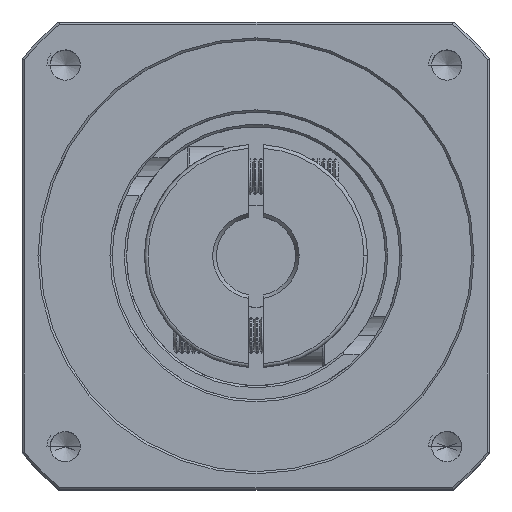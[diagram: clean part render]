
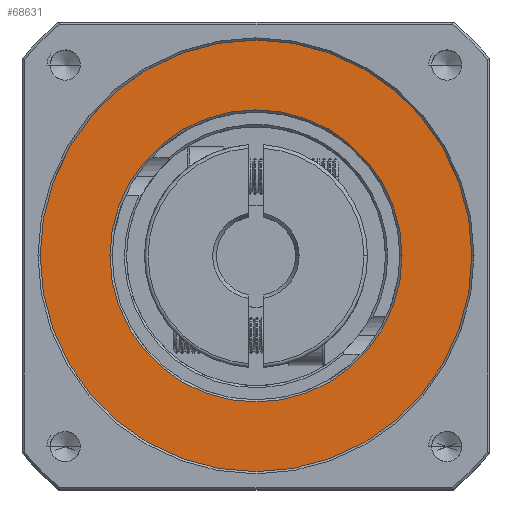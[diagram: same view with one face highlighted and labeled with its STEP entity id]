
A CAD part, top view. The second image highlights one B-rep face of the part: STEP entity #68631.
In plain terms, the highlighted planar face has unit normal (0, 0, 1).
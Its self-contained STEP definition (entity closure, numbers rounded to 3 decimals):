
#2599 = CARTESIAN_POINT ( 'NONE',  ( -101.435, 18.488, 28.781 ) ) ;
#4515 = FACE_BOUND ( 'NONE', #92381, .T. ) ;
#4580 = CIRCLE ( 'NONE', #83256, 30. ) ;
#4978 = AXIS2_PLACEMENT_3D ( 'NONE', #46759, #104182, #55068 ) ;
#6555 = DIRECTION ( 'NONE',  ( 1., 0., 0. ) ) ;
#6906 = CIRCLE ( 'NONE', #60551, 20.3 ) ;
#14480 = PLANE ( 'NONE',  #96137 ) ;
#22215 = ORIENTED_EDGE ( 'NONE', *, *, #104217, .T. ) ;
#23083 = ORIENTED_EDGE ( 'NONE', *, *, #30165, .T. ) ;
#25081 = VERTEX_POINT ( 'NONE', #61926 ) ;
#30165 = EDGE_CURVE ( 'NONE', #52276, #25081, #4580, .T. ) ;
#31295 = CARTESIAN_POINT ( 'NONE',  ( -111.135, 18.488, 28.781 ) ) ;
#35867 = CARTESIAN_POINT ( 'NONE',  ( -81.135, 18.488, 28.781 ) ) ;
#37338 = CARTESIAN_POINT ( 'NONE',  ( -81.135, 18.488, 28.781 ) ) ;
#39035 = CARTESIAN_POINT ( 'NONE',  ( -81.135, 18.488, 28.781 ) ) ;
#44101 = DIRECTION ( 'NONE',  ( 1., 0., 0. ) ) ;
#45604 = DIRECTION ( 'NONE',  ( 1., 0., 0. ) ) ;
#46759 = CARTESIAN_POINT ( 'NONE',  ( -81.135, 18.488, 28.781 ) ) ;
#47356 = DIRECTION ( 'NONE',  ( 1., 0., 0. ) ) ;
#51427 = EDGE_LOOP ( 'NONE', ( #22215, #23083 ) ) ;
#52276 = VERTEX_POINT ( 'NONE', #31295 ) ;
#54029 = AXIS2_PLACEMENT_3D ( 'NONE', #35867, #93284, #44101 ) ;
#55068 = DIRECTION ( 'NONE',  ( 1., 0., 0. ) ) ;
#55907 = DIRECTION ( 'NONE',  ( 0., 0., 1. ) ) ;
#56147 = CIRCLE ( 'NONE', #54029, 30. ) ;
#56596 = VERTEX_POINT ( 'NONE', #98701 ) ;
#56997 = EDGE_CURVE ( 'NONE', #56596, #92462, #6906, .T. ) ;
#60551 = AXIS2_PLACEMENT_3D ( 'NONE', #39035, #96453, #47356 ) ;
#61926 = CARTESIAN_POINT ( 'NONE',  ( -51.135, 18.488, 28.781 ) ) ;
#68631 = ADVANCED_FACE ( 'NONE', ( #4515, #89369 ), #14480, .T. ) ;
#69196 = CIRCLE ( 'NONE', #4978, 20.3 ) ;
#70068 = ORIENTED_EDGE ( 'NONE', *, *, #56997, .T. ) ;
#70105 = ORIENTED_EDGE ( 'NONE', *, *, #103656, .T. ) ;
#83256 = AXIS2_PLACEMENT_3D ( 'NONE', #37338, #94750, #45604 ) ;
#89369 = FACE_OUTER_BOUND ( 'NONE', #51427, .T. ) ;
#92381 = EDGE_LOOP ( 'NONE', ( #70068, #70105 ) ) ;
#92462 = VERTEX_POINT ( 'NONE', #2599 ) ;
#93284 = DIRECTION ( 'NONE',  ( 0., 0., 1. ) ) ;
#94750 = DIRECTION ( 'NONE',  ( 0., 0., 1. ) ) ;
#96137 = AXIS2_PLACEMENT_3D ( 'NONE', #105031, #55907, #6555 ) ;
#96453 = DIRECTION ( 'NONE',  ( 0., 0., -1. ) ) ;
#98701 = CARTESIAN_POINT ( 'NONE',  ( -60.835, 18.488, 28.781 ) ) ;
#103656 = EDGE_CURVE ( 'NONE', #92462, #56596, #69196, .T. ) ;
#104182 = DIRECTION ( 'NONE',  ( 0., 0., -1. ) ) ;
#104217 = EDGE_CURVE ( 'NONE', #25081, #52276, #56147, .T. ) ;
#105031 = CARTESIAN_POINT ( 'NONE',  ( -81.135, 18.488, 28.781 ) ) ;
